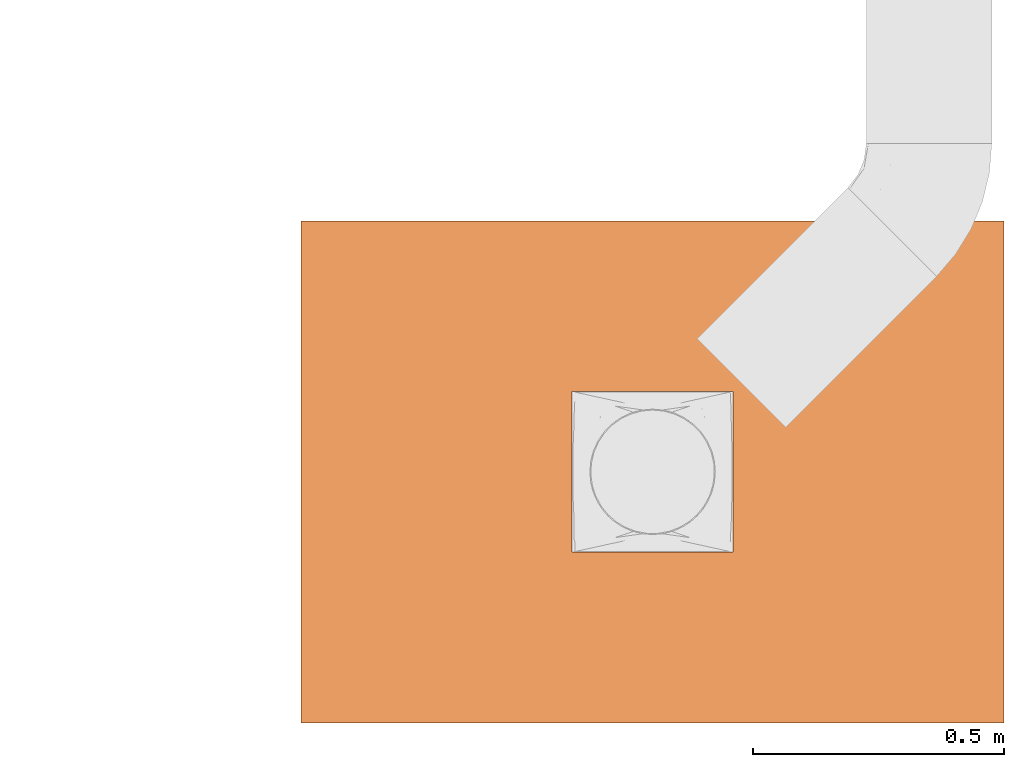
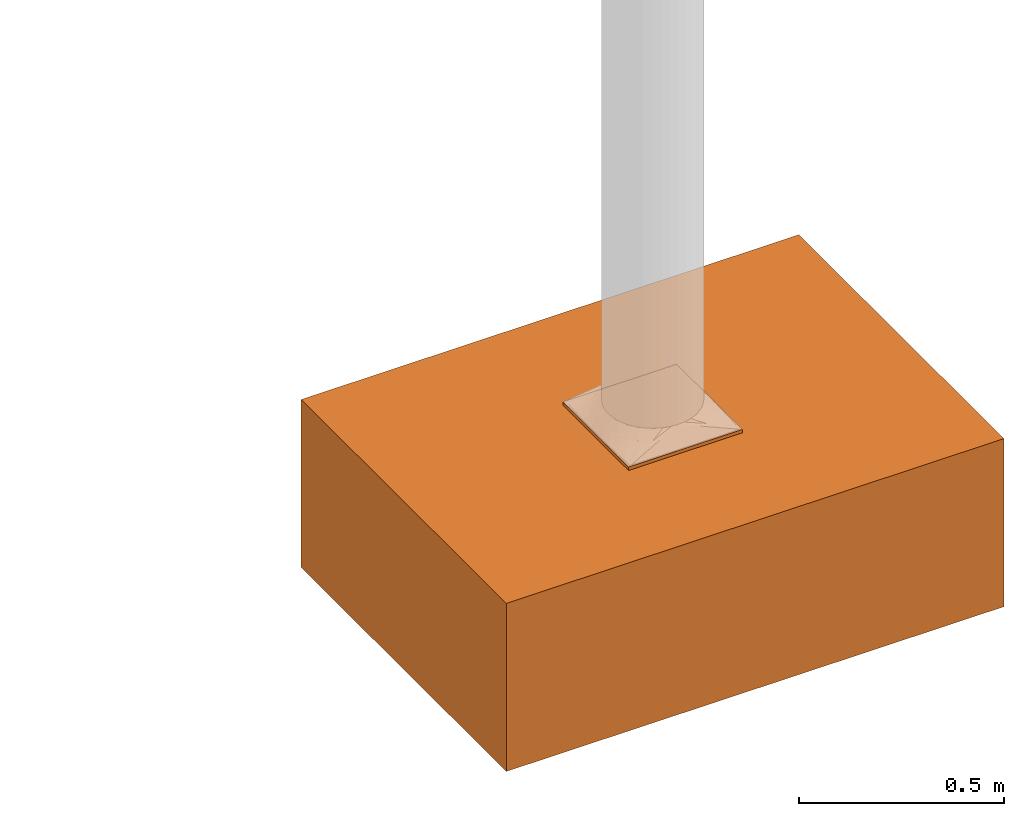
# One storey, part 3 of 3: 1 proxy.
"""IFC2X3 building model written with IfcOpenShell, lengths in millimetres."""

from ifc_helpers import new_model, entity, si_unit, converted_unit, derived_unit, direction, frame, origin_with_axes, place, context, subcontext, project, spatial, open_shell, surface_model, source, transform, mapped, element, save


model = new_model("IFC2X3")

# Units and contexts
model_context = context("Model", 3, precision=0.01, world=frame((0.0, 4.29681676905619e-09, 0.0)), true_north=direction((4.01073788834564e-13, 1.0)))
plan_context = context("Plan", 3, precision=0.01, world=frame((0.0, 4.29681676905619e-09, 0.0)), true_north=direction((4.01073788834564e-13, 1.0)))
body_context = subcontext(model_context, "Body", "Model", "MODEL_VIEW")
ifc_project = project(units=[converted_unit("PLANEANGLEUNIT", "DEGREE", entity("IfcPositiveLengthMeasure", 0.0174532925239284), si_unit("PLANEANGLEUNIT", "RADIAN"), dimensions=[0, 0, 0, 0, 0, 0, 0]), si_unit("AREAUNIT", "SQUARE_METRE"), si_unit("LENGTHUNIT", "METRE", prefix="MILLI"), si_unit("MASSUNIT", "GRAM", prefix="KILO"), si_unit("POWERUNIT", "WATT"), si_unit("PRESSUREUNIT", "PASCAL", prefix="KILO"), si_unit("FORCEUNIT", "NEWTON", prefix="KILO"), si_unit("ELECTRICVOLTAGEUNIT", "VOLT"), si_unit("ELECTRICCURRENTUNIT", "AMPERE"), si_unit("THERMODYNAMICTEMPERATUREUNIT", "DEGREE_CELSIUS"), si_unit("TIMEUNIT", "SECOND"), si_unit("VOLUMEUNIT", "CUBIC_METRE"), derived_unit("LINEARVELOCITYUNIT", [(si_unit("LENGTHUNIT", "METRE"), 1), (si_unit("TIMEUNIT", "SECOND"), -1)]), derived_unit("VOLUMETRICFLOWRATEUNIT", [(si_unit("VOLUMEUNIT", "CUBIC_METRE"), 1), (si_unit("TIMEUNIT", "SECOND"), -1)]), derived_unit("THERMALTRANSMITTANCEUNIT", [(si_unit("POWERUNIT", "WATT"), 1), (si_unit("THERMODYNAMICTEMPERATUREUNIT", "KELVIN"), -1), (si_unit("AREAUNIT", "SQUARE_METRE"), -1)]), derived_unit("SOUNDPRESSUREUNIT", [(si_unit("PRESSUREUNIT", "PASCAL"), 1)])], contexts=[model_context, plan_context])

# Site, building, storey
site_placement = place(None, frame((0.0, -4.29681676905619e-09, 0.0), z_axis=(0.0, 0.0, 1.0), x_axis=(1.0, 0.0, 0.0)))
site = spatial("IfcSite", under=ifc_project, at=site_placement, CompositionType="ELEMENT")
building_placement = place(site_placement, frame((0.0, 4.29681676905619e-09, 0.0), z_axis=(0.0, 0.0, 1.0), x_axis=(1.0, 0.0, 0.0)))
building = spatial("IfcBuilding", under=site, at=building_placement, Name="mc-building", CompositionType="ELEMENT")
storey_placement = place(building_placement, frame((0.0, 0.0, 210200.0), z_axis=(0.0, 0.0, 1.0), x_axis=(1.0, 0.0, 0.0)))
storey = spatial("IfcBuildingStorey", under=building, at=storey_placement, Name="Nivå F -0,7m", CompositionType="ELEMENT", Elevation=210200.0)

# Proxy
shared_shape = source(origin_with_axes(), body_context, "Body", "SurfaceModel", [
    surface_model("IfcShellBasedSurfaceModel", [(659.99998, 540.0, 510.00001), (659.99998, 859.99998, 510.00001), (340.0, 540.0, 510.00001), (340.0, 859.99998, 510.00001), (340.0, 540.0, 500.0), (340.0, 859.99998, 500.0), (659.99998, 859.99998, 500.0), (659.99998, 540.0, 500.0), (0.0, 0.0, 500.0), (1000.0, 0.0, 500.0), (0.0, 1400.00001, 500.0), (1000.0, 1400.00001, 500.0), (0.0, 1400.00001, 0.0), (1000.0, 1400.00001, 0.0), (0.0, 0.0, 0.0), (1000.0, 0.0, 0.0)], [open_shell([[[0, 1, 2]], [[3, 2, 1]], [[4, 5, 6]], [[6, 7, 4]], [[3, 1, 6]], [[6, 5, 3]], [[2, 3, 5]], [[5, 4, 2]], [[0, 2, 4]], [[4, 7, 0]], [[1, 0, 7]], [[7, 6, 1]], [[8, 9, 10]], [[11, 10, 9]], [[12, 13, 14]], [[15, 14, 13]], [[11, 9, 15]], [[15, 13, 11]], [[10, 11, 12]], [[13, 12, 11]], [[8, 10, 12]], [[12, 14, 8]], [[9, 8, 15]], [[14, 15, 8]]])]),
])
proxy_placement = place(storey_placement, frame((726351.30177, 439315.58279, 2800.0), z_axis=(0.0, 0.0, 1.0), x_axis=(0.0, -1.0, 0.0)))
element("IfcBuildingElementProxy", 1, at=proxy_placement, inside=storey, Name="hette 1400-1000-500 320x320", context=body_context, shape_type="MappedRepresentation", body=[
    mapped(shared_shape, transform((0.0, 0.0, 0.0), scale=1.0)),
])

save(model, "model.ifc")
